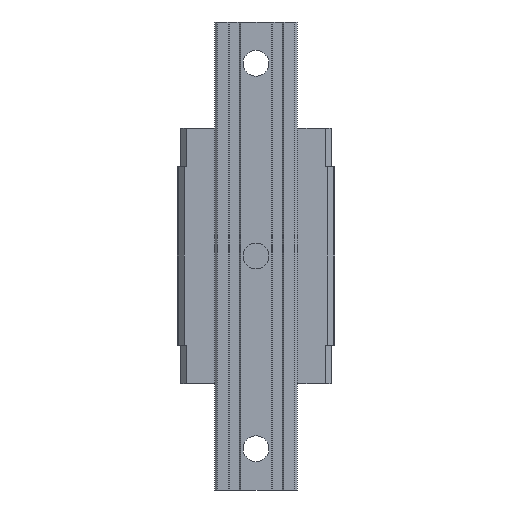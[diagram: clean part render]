
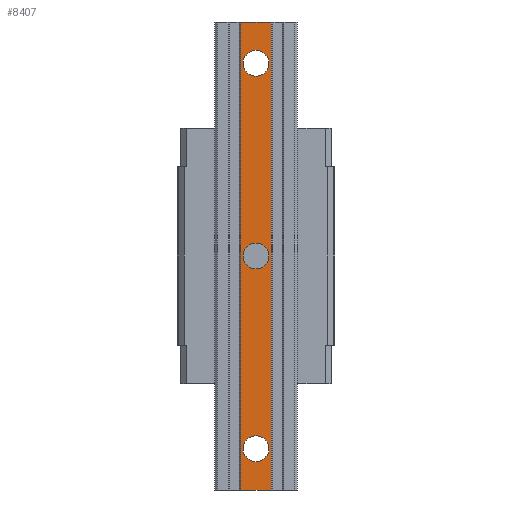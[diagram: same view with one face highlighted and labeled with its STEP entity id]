
A CAD part, front view. The second image highlights one B-rep face of the part: STEP entity #8407.
In plain terms, the highlighted planar face has unit normal (0, -1, 0).
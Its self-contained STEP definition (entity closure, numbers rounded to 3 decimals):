
#33 = VERTEX_POINT ( 'NONE', #4072 ) ;
#56 = CARTESIAN_POINT ( 'NONE',  ( -8.25, -38., -127.5 ) ) ;
#116 = VERTEX_POINT ( 'NONE', #1387 ) ;
#174 = DIRECTION ( 'NONE',  ( 0., -1., 0. ) ) ;
#547 = CARTESIAN_POINT ( 'NONE',  ( -8.25, -38., -127.5 ) ) ;
#655 = AXIS2_PLACEMENT_3D ( 'NONE', #2792, #5617, #1803 ) ;
#798 = CIRCLE ( 'NONE', #4116, 7. ) ;
#1048 = AXIS2_PLACEMENT_3D ( 'NONE', #10097, #8367, #8423 ) ;
#1055 = CARTESIAN_POINT ( 'NONE',  ( 0., -38., -127.5 ) ) ;
#1294 = ORIENTED_EDGE ( 'NONE', *, *, #4876, .T. ) ;
#1387 = CARTESIAN_POINT ( 'NONE',  ( -8.25, -38., -127.5 ) ) ;
#1420 = FACE_BOUND ( 'NONE', #3453, .T. ) ;
#1421 = VERTEX_POINT ( 'NONE', #7978 ) ;
#1434 = CIRCLE ( 'NONE', #7493, 7. ) ;
#1547 = FACE_OUTER_BOUND ( 'NONE', #1773, .T. ) ;
#1702 = AXIS2_PLACEMENT_3D ( 'NONE', #9771, #9833, #6147 ) ;
#1773 = EDGE_LOOP ( 'NONE', ( #4019, #12348, #1294, #4180 ) ) ;
#1803 = DIRECTION ( 'NONE',  ( 0., 0., 1. ) ) ;
#2101 = DIRECTION ( 'NONE',  ( 0., 1., 0. ) ) ;
#2352 = DIRECTION ( 'NONE',  ( 0., 0., 1. ) ) ;
#2792 = CARTESIAN_POINT ( 'NONE',  ( 0., -38., 105. ) ) ;
#3346 = CARTESIAN_POINT ( 'NONE',  ( 8.25, -38., 127.5 ) ) ;
#3453 = EDGE_LOOP ( 'NONE', ( #7736, #11878 ) ) ;
#3538 = LINE ( 'NONE', #547, #4664 ) ;
#3798 = DIRECTION ( 'NONE',  ( 0., 0., 1. ) ) ;
#3861 = DIRECTION ( 'NONE',  ( 0., 1., 0. ) ) ;
#3991 = CIRCLE ( 'NONE', #655, 7. ) ;
#4019 = ORIENTED_EDGE ( 'NONE', *, *, #12131, .T. ) ;
#4072 = CARTESIAN_POINT ( 'NONE',  ( 0., -38., -7. ) ) ;
#4116 = AXIS2_PLACEMENT_3D ( 'NONE', #10870, #3861, #3798 ) ;
#4180 = ORIENTED_EDGE ( 'NONE', *, *, #11258, .F. ) ;
#4185 = VECTOR ( 'NONE', #4646, 1000. ) ;
#4557 = AXIS2_PLACEMENT_3D ( 'NONE', #56, #174, #6067 ) ;
#4646 = DIRECTION ( 'NONE',  ( 1., 0., 0. ) ) ;
#4664 = VECTOR ( 'NONE', #7536, 1000. ) ;
#4767 = CARTESIAN_POINT ( 'NONE',  ( 0., -38., 98. ) ) ;
#4808 = ORIENTED_EDGE ( 'NONE', *, *, #6486, .T. ) ;
#4852 = VERTEX_POINT ( 'NONE', #12248 ) ;
#4876 = EDGE_CURVE ( 'NONE', #5320, #10866, #5390, .T. ) ;
#5167 = ORIENTED_EDGE ( 'NONE', *, *, #10869, .T. ) ;
#5190 = CARTESIAN_POINT ( 'NONE',  ( 0., -38., 0. ) ) ;
#5194 = CARTESIAN_POINT ( 'NONE',  ( 0., -38., -98. ) ) ;
#5314 = DIRECTION ( 'NONE',  ( 0., 0., 1. ) ) ;
#5320 = VERTEX_POINT ( 'NONE', #9609 ) ;
#5390 = LINE ( 'NONE', #10394, #11245 ) ;
#5617 = DIRECTION ( 'NONE',  ( 0., 1., 0. ) ) ;
#5910 = LINE ( 'NONE', #1055, #6651 ) ;
#5926 = ORIENTED_EDGE ( 'NONE', *, *, #8183, .T. ) ;
#6067 = DIRECTION ( 'NONE',  ( 0., 0., -1. ) ) ;
#6147 = DIRECTION ( 'NONE',  ( 0., 0., 1. ) ) ;
#6286 = EDGE_CURVE ( 'NONE', #8847, #11915, #6294, .T. ) ;
#6294 = CIRCLE ( 'NONE', #1048, 7. ) ;
#6486 = EDGE_CURVE ( 'NONE', #10897, #33, #1434, .T. ) ;
#6651 = VECTOR ( 'NONE', #9859, 1000. ) ;
#6659 = EDGE_LOOP ( 'NONE', ( #5926, #7324 ) ) ;
#7052 = VERTEX_POINT ( 'NONE', #4767 ) ;
#7324 = ORIENTED_EDGE ( 'NONE', *, *, #11288, .T. ) ;
#7362 = CIRCLE ( 'NONE', #1702, 7. ) ;
#7374 = CARTESIAN_POINT ( 'NONE',  ( 0., -38., -112. ) ) ;
#7493 = AXIS2_PLACEMENT_3D ( 'NONE', #9084, #10186, #5314 ) ;
#7532 = DIRECTION ( 'NONE',  ( 0., 0., 1. ) ) ;
#7536 = DIRECTION ( 'NONE',  ( 0., 0., -1. ) ) ;
#7736 = ORIENTED_EDGE ( 'NONE', *, *, #11772, .T. ) ;
#7978 = CARTESIAN_POINT ( 'NONE',  ( -8.25, -38., 127.5 ) ) ;
#8109 = CIRCLE ( 'NONE', #10155, 7. ) ;
#8180 = EDGE_CURVE ( 'NONE', #116, #5320, #5910, .T. ) ;
#8183 = EDGE_CURVE ( 'NONE', #4852, #7052, #798, .T. ) ;
#8367 = DIRECTION ( 'NONE',  ( 0., 1., 0. ) ) ;
#8407 = ADVANCED_FACE ( 'NONE', ( #8432, #10293, #1420, #1547 ), #12331, .T. ) ;
#8423 = DIRECTION ( 'NONE',  ( 0., 0., 1. ) ) ;
#8432 = FACE_BOUND ( 'NONE', #8829, .T. ) ;
#8491 = LINE ( 'NONE', #12572, #4185 ) ;
#8829 = EDGE_LOOP ( 'NONE', ( #4808, #5167 ) ) ;
#8847 = VERTEX_POINT ( 'NONE', #7374 ) ;
#9084 = CARTESIAN_POINT ( 'NONE',  ( 0., -38., 0. ) ) ;
#9609 = CARTESIAN_POINT ( 'NONE',  ( 8.25, -38., -127.5 ) ) ;
#9771 = CARTESIAN_POINT ( 'NONE',  ( 0., -38., -105. ) ) ;
#9833 = DIRECTION ( 'NONE',  ( 0., 1., 0. ) ) ;
#9859 = DIRECTION ( 'NONE',  ( 1., 0., 0. ) ) ;
#10097 = CARTESIAN_POINT ( 'NONE',  ( 0., -38., -105. ) ) ;
#10155 = AXIS2_PLACEMENT_3D ( 'NONE', #5190, #2101, #2352 ) ;
#10186 = DIRECTION ( 'NONE',  ( 0., 1., 0. ) ) ;
#10293 = FACE_BOUND ( 'NONE', #6659, .T. ) ;
#10394 = CARTESIAN_POINT ( 'NONE',  ( 8.25, -38., -127.5 ) ) ;
#10866 = VERTEX_POINT ( 'NONE', #3346 ) ;
#10869 = EDGE_CURVE ( 'NONE', #33, #10897, #8109, .T. ) ;
#10870 = CARTESIAN_POINT ( 'NONE',  ( 0., -38., 105. ) ) ;
#10897 = VERTEX_POINT ( 'NONE', #11301 ) ;
#11245 = VECTOR ( 'NONE', #7532, 1000. ) ;
#11258 = EDGE_CURVE ( 'NONE', #1421, #10866, #8491, .T. ) ;
#11288 = EDGE_CURVE ( 'NONE', #7052, #4852, #3991, .T. ) ;
#11301 = CARTESIAN_POINT ( 'NONE',  ( 0., -38., 7. ) ) ;
#11772 = EDGE_CURVE ( 'NONE', #11915, #8847, #7362, .T. ) ;
#11878 = ORIENTED_EDGE ( 'NONE', *, *, #6286, .T. ) ;
#11915 = VERTEX_POINT ( 'NONE', #5194 ) ;
#12131 = EDGE_CURVE ( 'NONE', #1421, #116, #3538, .T. ) ;
#12248 = CARTESIAN_POINT ( 'NONE',  ( 0., -38., 112. ) ) ;
#12331 = PLANE ( 'NONE',  #4557 ) ;
#12348 = ORIENTED_EDGE ( 'NONE', *, *, #8180, .T. ) ;
#12572 = CARTESIAN_POINT ( 'NONE',  ( 0., -38., 127.5 ) ) ;
